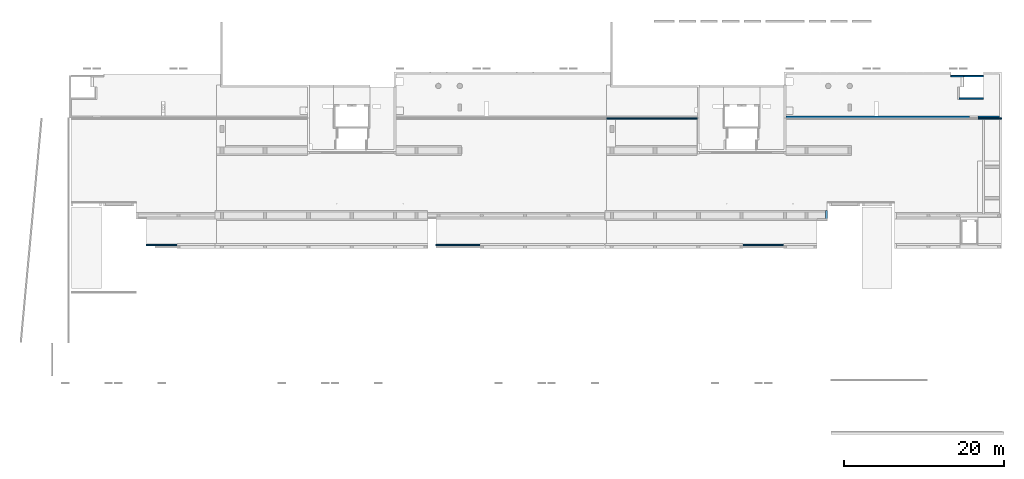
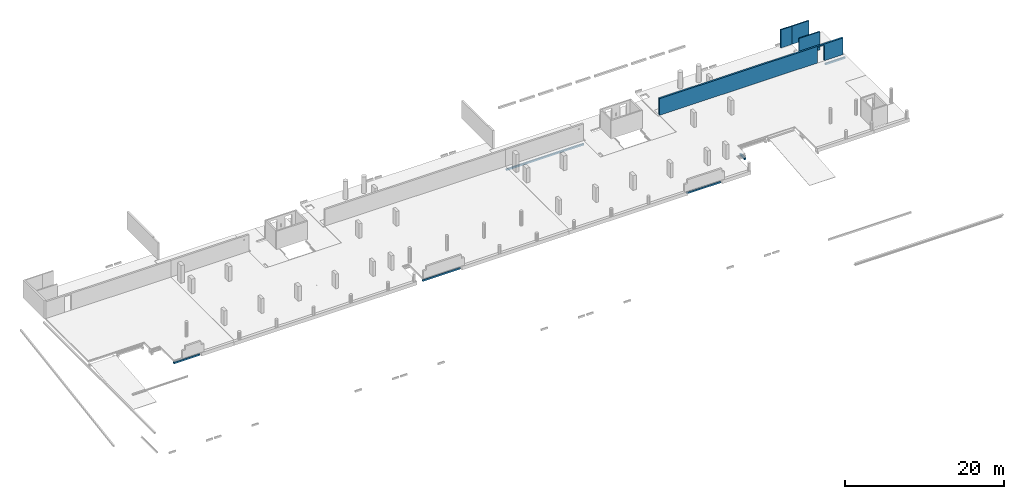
# One storey, part 7 of 10: 10 walls, 1 opening.
"""IFC2X3 building model written with IfcOpenShell, lengths in millimetres."""

from ifc_helpers import new_model, entity, si_unit, converted_unit, derived_unit, direction, frame, frame_2d, origin, place, context, subcontext, project, spatial, rectangle, extrude, faceted_brep, material, layer, layer_set, layer_usage, type_object, element, save


model = new_model("IFC2X3")

# Units and contexts
model_context = context("Model", 3, precision=0.01, world=origin(), true_north=direction((6.12303176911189e-17, 1.0)))
body_context = subcontext(model_context, "Body", "Model", "MODEL_VIEW")
ifc_project = project(units=[si_unit("LENGTHUNIT", "METRE", prefix="MILLI"), si_unit("AREAUNIT", "SQUARE_METRE"), si_unit("VOLUMEUNIT", "CUBIC_METRE"), converted_unit("PLANEANGLEUNIT", "DEGREE", entity("IfcRatioMeasure", 0.0174532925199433), si_unit("PLANEANGLEUNIT", "RADIAN"), dimensions=[0, 0, 0, 0, 0, 0, 0]), si_unit("MASSUNIT", "GRAM", prefix="KILO"), derived_unit("MASSDENSITYUNIT", [(si_unit("MASSUNIT", "GRAM", prefix="KILO"), 1), (si_unit("LENGTHUNIT", "METRE"), -3)]), si_unit("TIMEUNIT", "SECOND"), si_unit("FREQUENCYUNIT", "HERTZ"), si_unit("THERMODYNAMICTEMPERATUREUNIT", "DEGREE_CELSIUS"), derived_unit("THERMALTRANSMITTANCEUNIT", [(si_unit("MASSUNIT", "GRAM", prefix="KILO"), 1), (si_unit("THERMODYNAMICTEMPERATUREUNIT", "KELVIN"), -1), (si_unit("TIMEUNIT", "SECOND"), -3)]), derived_unit("VOLUMETRICFLOWRATEUNIT", [(si_unit("LENGTHUNIT", "METRE"), 3), (si_unit("TIMEUNIT", "SECOND"), -1)]), si_unit("ELECTRICCURRENTUNIT", "AMPERE"), si_unit("ELECTRICVOLTAGEUNIT", "VOLT"), si_unit("POWERUNIT", "WATT"), si_unit("FORCEUNIT", "NEWTON", prefix="KILO"), si_unit("ILLUMINANCEUNIT", "LUX"), si_unit("LUMINOUSFLUXUNIT", "LUMEN"), si_unit("LUMINOUSINTENSITYUNIT", "CANDELA"), derived_unit("USERDEFINED", [(si_unit("MASSUNIT", "GRAM", prefix="KILO"), -1), (si_unit("LENGTHUNIT", "METRE"), -2), (si_unit("TIMEUNIT", "SECOND"), 3), (si_unit("LUMINOUSFLUXUNIT", "LUMEN"), 1)]), derived_unit("LINEARVELOCITYUNIT", [(si_unit("LENGTHUNIT", "METRE"), 1), (si_unit("TIMEUNIT", "SECOND"), -1)]), si_unit("PRESSUREUNIT", "PASCAL"), derived_unit("USERDEFINED", [(si_unit("LENGTHUNIT", "METRE"), -2), (si_unit("MASSUNIT", "GRAM", prefix="KILO"), 1), (si_unit("TIMEUNIT", "SECOND"), -2)])], contexts=[model_context])

# Site, building, storey
site_placement = place(None, origin())
site = spatial("IfcSite", under=ifc_project, at=site_placement, Name="Default", CompositionType="ELEMENT")
building_placement = place(site_placement, origin())
building = spatial("IfcBuilding", under=site, at=building_placement, Name="niet gebruiken", CompositionType="ELEMENT")
storey_placement = place(building_placement, frame((0.0, 0.0, 6610.0)))
storey = spatial("IfcBuildingStorey", under=building, at=storey_placement, Name="01c derde tussenverdieping", CompositionType="ELEMENT", Elevation=6610.0)

# Wall, opening
ifc_material_1 = material(Name="NLRS_f2_beton ihwg")
ifc_layer_1 = layer(ifc_material_1, 250.0)
ifc_layer_set_1 = layer_set([ifc_layer_1], Name="Basic Wall:NLRS_22.21_WA_beton ihwg d=250_gen")
ifc_layer_usage_1 = layer_usage(ifc_layer_set_1, "AXIS2", "NEGATIVE", 125.0)
wall_type_1 = type_object("IfcWallType", Name="Basic Wall:NLRS_22.21_WA_beton ihwg d=250_gen", PredefinedType="STANDARD", material=ifc_layer_set_1)
wall_1_placement = place(storey_placement, frame((123950.0, 41186.0, 0.0), z_axis=(0.0, 0.0, 1.0), x_axis=(-1.0, 0.0, 0.0)))
wall_1 = element("IfcWallStandardCase", 1, at=wall_1_placement, inside=storey, type_object=wall_type_1, material=ifc_layer_usage_1, Name="Basic Wall:NLRS_22.21_WA_beton ihwg d=250_gen", ObjectType="Basic Wall:NLRS_22.21_WA_beton ihwg d=250_gen", context=body_context, shape_type="SweptSolid", body=[
    extrude(rectangle(XDim=26625.0000000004, YDim=249.999999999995, at=frame_2d((13312.5000000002, -1.24344978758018e-12), x_axis=(-1.0, 0.0))), origin(), (0.0, 0.0, 1.0), 2550.0),
])
opening_placement = place(wall_1_placement, origin())
element("IfcOpeningElement", 2, at=opening_placement, cuts=wall_1, Name="Basic Wall:NLRS_22.21_WA_beton ihwg d=250_gen", ObjectType="Opening", context=body_context, shape_type="SweptSolid", body=[
    extrude(rectangle(XDim=2380.0, YDim=1024.99999999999, at=frame_2d((5.6843418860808e-13, 0.0), x_axis=(1.0, 0.0))), frame((3212.5000000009, -1649.0, 1190.0), z_axis=(0.0, 1.0, 0.0), x_axis=(0.0, 0.0, 1.0)), (0.0, 0.0, 1.0), 3048.0),
])

# Walls
ifc_material_2 = material(Name="NLRS_f2_beton prefab")
ifc_layer_2 = layer(ifc_material_2, 180.0)
ifc_layer_set_2 = layer_set([ifc_layer_2], Name="Basic Wall:NLRS_22.21_WA_beton prefab d=180_gen")
ifc_layer_usage_2 = layer_usage(ifc_layer_set_2, "AXIS2", "NEGATIVE", 90.0)
wall_type_2 = type_object("IfcWallType", Name="Basic Wall:NLRS_22.21_WA_beton prefab d=180_gen", PredefinedType="STANDARD", material=ifc_layer_set_2)
wall_2_placement = place(storey_placement, frame((119485.0, 46266.0, 20.0)))
element("IfcWallStandardCase", 3, at=wall_2_placement, inside=storey, type_object=wall_type_2, material=ifc_layer_usage_2, Name="Basic Wall:NLRS_22.21_WA_beton prefab d=180_gen", ObjectType="Basic Wall:NLRS_22.21_WA_beton prefab d=180_gen", context=body_context, shape_type="SweptSolid", body=[
    extrude(rectangle(XDim=2444.99929368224, YDim=179.999999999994, at=frame_2d((1222.49964684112, 3.78719278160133e-12), x_axis=(-1.0, 0.0))), origin(), (0.0, 0.0, 1.0), 2780.0),
])
ifc_layer_usage_3 = layer_usage(ifc_layer_set_2, "AXIS2", "NEGATIVE", 90.0)
wall_3_placement = place(storey_placement, frame((117880.0, 46266.0, 20.0)))
element("IfcWallStandardCase", 4, at=wall_3_placement, inside=storey, type_object=wall_type_2, material=ifc_layer_usage_3, Name="Basic Wall:NLRS_22.21_WA_beton prefab d=180_gen", ObjectType="Basic Wall:NLRS_22.21_WA_beton prefab d=180_gen", context=body_context, shape_type="SweptSolid", body=[
    extrude(rectangle(XDim=1605.00000000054, YDim=179.999999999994, at=frame_2d((802.500000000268, 0.0), x_axis=(-1.0, 0.0))), origin(), (0.0, 0.0, 1.0), 2780.0),
])
ifc_layer_usage_4 = layer_usage(ifc_layer_set_2, "AXIS2", "NEGATIVE", 90.0)
wall_4_placement = place(storey_placement, frame((118905.002875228, 43486.0, 20.0)))
element("IfcWallStandardCase", 5, at=wall_4_placement, inside=storey, type_object=wall_type_2, material=ifc_layer_usage_4, Name="Basic Wall:NLRS_22.21_WA_beton prefab d=180_gen", ObjectType="Basic Wall:NLRS_22.21_WA_beton prefab d=180_gen", context=body_context, shape_type="SweptSolid", body=[
    extrude(rectangle(XDim=3024.99712477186, YDim=179.999999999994, at=frame_2d((1512.49856238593, -1.07291953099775e-12), x_axis=(-1.0, 0.0))), origin(), (0.0, 0.0, 1.0), 2780.0),
])
wall_type_3 = type_object("IfcWallType", Name="NLRS_21.21_SF_WPB_oplegnok ihwg beton_gen:200x250", PredefinedType="NOTDEFINED", material=ifc_material_1)
wall_5_placement = place(storey_placement, frame((74970.0, 40861.0, -580.0)))
element("IfcWall", 6, at=wall_5_placement, inside=storey, type_object=wall_type_3, material=ifc_material_1, Name="NLRS_21.21_SF_WPB_oplegnok ihwg beton_gen:200x250", ObjectType="NLRS_21.21_SF_WPB_oplegnok ihwg beton_gen:200x250", context=body_context, shape_type="Brep", body=[
    faceted_brep([(0.0, 200.0, 250.0), (0.0, 200.0, 0.0), (0.0, 0.0, 0.0), (0.0, 0.0, 250.0), (11285.0, 0.0, 0.0), (11285.0, 200.0, 0.0), (11285.0, 200.0, 240.0), (11285.0, 0.0, 240.0), (11279.9998491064, 200.0, 250.0), (11279.9998491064, 200.0, 240.0), (11279.9998491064, 0.0, 240.0), (11279.9998491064, 0.0, 250.0)], [[[0, 1, 2, 3]], [[4, 5, 6, 7]], [[1, 0, 8, 9, 6, 5]], [[3, 2, 4, 7, 10, 11]], [[0, 3, 11, 8]], [[2, 1, 5, 4]], [[9, 10, 7, 6]], [[10, 9, 8, 11]]]),
])
wall_6_placement = place(storey_placement, frame((121250.0, 40861.0, -580.0)))
element("IfcWall", 7, at=wall_6_placement, inside=storey, type_object=wall_type_3, material=ifc_material_1, Name="NLRS_21.21_SF_WPB_oplegnok ihwg beton_gen:200x250", ObjectType="NLRS_21.21_SF_WPB_oplegnok ihwg beton_gen:200x250", context=body_context, shape_type="SweptSolid", body=[
    extrude(rectangle(XDim=2950.00000000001, YDim=199.999999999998, at=frame_2d((8.64019966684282e-12, 0.0), x_axis=(1.0, 0.0))), frame((1475.0, 100.0, 0.0)), (0.0, 0.0, 1.0), 250.000000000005),
])
wall_type_4 = type_object("IfcWallType", Name="NLRS_21.21_SF_WPB_oplegnok prefabbeton_gen:250x310", PredefinedType="NOTDEFINED", material=ifc_material_2)
wall_7_placement = place(storey_placement, frame((102225.0, 28263.5, -850.0), z_axis=(0.0, 0.0, 1.0), x_axis=(0.0, 1.0, 0.0)))
element("IfcWall", 8, at=wall_7_placement, inside=storey, type_object=wall_type_4, material=ifc_material_2, Name="NLRS_21.21_SF_WPB_oplegnok prefabbeton_gen:250x310", ObjectType="NLRS_21.21_SF_WPB_oplegnok prefabbeton_gen:250x310", context=body_context, shape_type="Brep", body=[
    faceted_brep([(0.0, -250.0, 310.0), (0.0, 0.0, 310.0), (0.0, 0.0, 39.9987607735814), (0.0, -250.0, 0.0), (1235.0, -250.0, 310.0), (1235.0, -250.0, 0.0), (1235.0, 0.0, 39.9987607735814), (1235.0, 0.0, 310.0)], [[[0, 1, 2, 3]], [[4, 5, 6, 7]], [[3, 5, 4, 0]], [[1, 7, 6, 2]], [[0, 4, 7, 1]], [[2, 6, 5, 3]]]),
])
wall_type_5 = type_object("IfcWallType", Name="NLRS_21.21_SF_WPB_oplegnok prefabbeton_gen:200x250 afschuining", PredefinedType="NOTDEFINED", material=ifc_material_2)
wall_8_placement = place(storey_placement, frame((17595.0, 25101.0, -580.0)))
element("IfcWall", 9, at=wall_8_placement, inside=storey, type_object=wall_type_5, material=ifc_material_2, Name="NLRS_21.21_SF_WPB_oplegnok prefabbeton_gen:200x250 afschuining", ObjectType="NLRS_21.21_SF_WPB_oplegnok prefabbeton_gen:200x250 afschuining", context=body_context, shape_type="Brep", body=[
    faceted_brep([(0.0, 0.0, 250.0), (0.0, 200.0, 250.0), (0.0, 200.0, 49.9768447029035), (0.0, 0.0, 0.0), (3785.0, 0.0, 250.0), (3785.0, 0.0, 30.0), (3785.0, 0.0, 0.0), (3785.0, 200.0, 49.9768447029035), (3785.0, 200.0, 250.0)], [[[0, 1, 2, 3]], [[4, 5, 6, 7, 8]], [[3, 6, 5, 4, 0]], [[1, 8, 7, 2]], [[0, 4, 8, 1]], [[2, 7, 6, 3]]]),
])
wall_9_placement = place(storey_placement, frame((53690.0, 25101.0, -580.0)))
element("IfcWall", 10, at=wall_9_placement, inside=storey, type_object=wall_type_5, material=ifc_material_2, Name="NLRS_21.21_SF_WPB_oplegnok prefabbeton_gen:200x250 afschuining", ObjectType="NLRS_21.21_SF_WPB_oplegnok prefabbeton_gen:200x250 afschuining", context=body_context, shape_type="Brep", body=[
    faceted_brep([(0.0, 0.0, 250.0), (0.0, 200.0, 250.0), (0.0, 200.0, 49.9768447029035), (0.0, 0.0, 0.0), (5490.0, 0.0, 250.0), (5490.0, 0.0, 30.0), (5490.0, 0.0, 0.0), (5490.0, 200.0, 49.9768447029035), (5490.0, 200.0, 250.0)], [[[0, 1, 2, 3]], [[4, 5, 6, 7, 8]], [[3, 6, 5, 4, 0]], [[1, 8, 7, 2]], [[0, 4, 8, 1]], [[2, 7, 6, 3]]]),
])
wall_10_placement = place(storey_placement, frame((92020.0, 25101.0, -580.0)))
element("IfcWall", 11, at=wall_10_placement, inside=storey, type_object=wall_type_5, material=ifc_material_2, Name="NLRS_21.21_SF_WPB_oplegnok prefabbeton_gen:200x250 afschuining", ObjectType="NLRS_21.21_SF_WPB_oplegnok prefabbeton_gen:200x250 afschuining", context=body_context, shape_type="Brep", body=[
    faceted_brep([(0.0, 0.0, 250.0), (0.0, 200.0, 250.0), (0.0, 200.0, 49.9768447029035), (0.0, 0.0, 0.0), (0.0, 0.0, 30.0), (4960.0, 0.0, 250.0), (4960.0, 0.0, 30.0), (4960.0, 0.0, 0.0), (4960.0, 200.0, 49.9768447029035), (4960.0, 200.0, 250.0)], [[[0, 1, 2, 3, 4]], [[5, 6, 7, 8, 9]], [[3, 7, 6, 5, 0, 4]], [[1, 9, 8, 2]], [[0, 5, 9, 1]], [[2, 8, 7, 3]]]),
])

save(model, "model.ifc")
